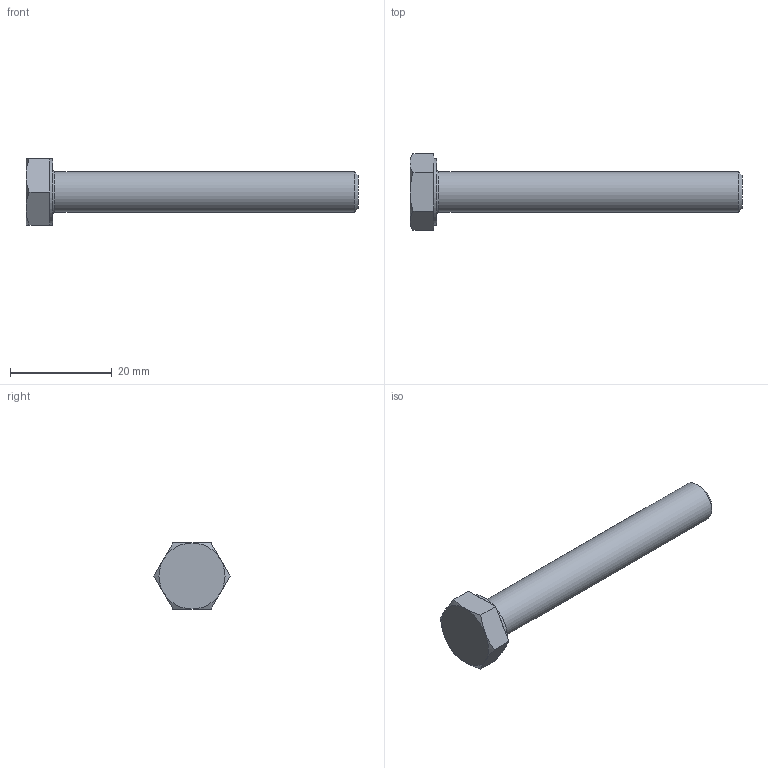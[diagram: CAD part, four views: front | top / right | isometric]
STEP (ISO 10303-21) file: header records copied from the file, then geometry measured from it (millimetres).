
FILE_DESCRIPTION (( 'STEP AP203' ), '1' );
FILE_NAME ('Vis tête hexagonale DIN EN 24014 - M8 x 60.STEP', '2026-06-24T07:29:49', ( '' ), ( '' ), 'SwSTEP 2.0', 'SolidWorks 2024', '' );
FILE_SCHEMA (( 'CONFIG_CONTROL_DESIGN' ));
Length unit declared in the file: millimetre
Products named in the file (1): Vis tête hexagonale DIN EN 24014 - M8 x 60_DIN EN 24014 - M8 x 60 x 22-C
Bounding box: 65.3 x 15.01 x 13 mm (x, y, z)
Volume: 3776.3 mm3; surface area: 2015 mm2
Topology: 1 solids, 1 shells, 25 faces, 52 edges, 30 vertices
Faces by surface type: plane 15, cone 7, cylinder 2, torus 1
Full cylindrical faces by diameter (mm): 8 x1, 13 x1
Entity records: 741 total; most frequent: CARTESIAN_POINT 170, DIRECTION 104, ORIENTED_EDGE 94, EDGE_CURVE 47, AXIS2_PLACEMENT_3D 43, EDGE_LOOP 30, VERTEX_POINT 29, FACE_OUTER_BOUND 28
